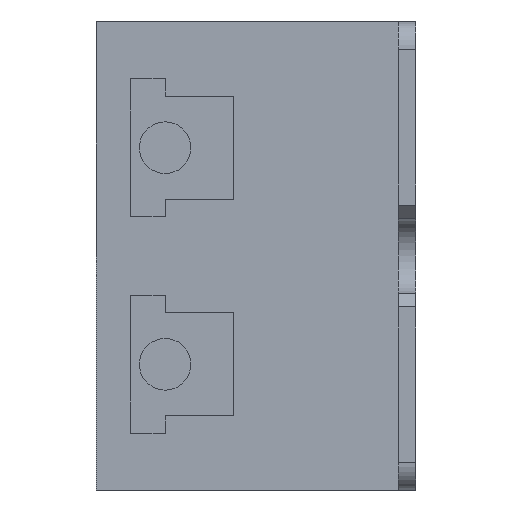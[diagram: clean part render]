
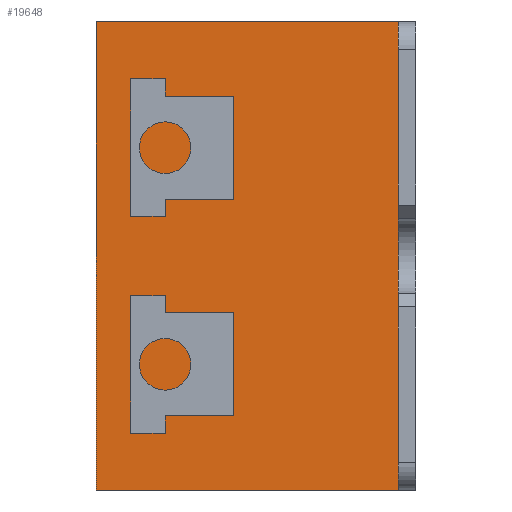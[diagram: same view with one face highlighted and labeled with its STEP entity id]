
A CAD part, left-side view. The second image highlights one B-rep face of the part: STEP entity #19648.
In plain terms, the highlighted planar face has unit normal (-1, 0, 0).
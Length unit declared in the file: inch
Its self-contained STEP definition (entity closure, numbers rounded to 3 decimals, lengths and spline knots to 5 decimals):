
#71 = DIRECTION ( 'NONE',  ( 0., 0., -1. ) ) ;
#1727 = CARTESIAN_POINT ( 'NONE',  ( -4.25, -0.58, -0.85 ) ) ;
#2116 = EDGE_LOOP ( 'NONE', ( #22579, #5166, #16364, #14375 ) ) ;
#3114 = EDGE_CURVE ( 'NONE', #20078, #19324, #18248, .T. ) ;
#3245 = CARTESIAN_POINT ( 'NONE',  ( -4.25, -0.58, 0.85 ) ) ;
#3308 = VERTEX_POINT ( 'NONE', #9154 ) ;
#3477 = DIRECTION ( 'NONE',  ( 0., 0., -1. ) ) ;
#4046 = LINE ( 'NONE', #11395, #5158 ) ;
#5158 = VECTOR ( 'NONE', #71, 39.37008 ) ;
#5166 = ORIENTED_EDGE ( 'NONE', *, *, #16081, .F. ) ;
#7115 = DIRECTION ( 'NONE',  ( 0., 0., -1. ) ) ;
#8026 = CARTESIAN_POINT ( 'NONE',  ( -4.25, -0.5175, -0.85 ) ) ;
#8502 = LINE ( 'NONE', #19593, #22404 ) ;
#9076 = DIRECTION ( 'NONE',  ( 0., -1., 0. ) ) ;
#9154 = CARTESIAN_POINT ( 'NONE',  ( -4.25, 0.58, 0.85 ) ) ;
#10187 = CARTESIAN_POINT ( 'NONE',  ( -4.25, -0.5175, 0.85 ) ) ;
#11395 = CARTESIAN_POINT ( 'NONE',  ( -4.25, 0.58, 0.85 ) ) ;
#12402 = CARTESIAN_POINT ( 'NONE',  ( -4.25, -0.5175, 0.85 ) ) ;
#14375 = ORIENTED_EDGE ( 'NONE', *, *, #3114, .T. ) ;
#14554 = DIRECTION ( 'NONE',  ( 1., 0., 0. ) ) ;
#15851 = AXIS2_PLACEMENT_3D ( 'NONE', #3245, #14554, #3477 ) ;
#16081 = EDGE_CURVE ( 'NONE', #3308, #22692, #8502, .T. ) ;
#16364 = ORIENTED_EDGE ( 'NONE', *, *, #23392, .T. ) ;
#17687 = VECTOR ( 'NONE', #9076, 39.37008 ) ;
#17950 = PLANE ( 'NONE',  #15851 ) ;
#18248 = LINE ( 'NONE', #1727, #17687 ) ;
#19324 = VERTEX_POINT ( 'NONE', #8026 ) ;
#19593 = CARTESIAN_POINT ( 'NONE',  ( -4.25, -0.58, 0.85 ) ) ;
#19648 = ADVANCED_FACE ( 'NONE', ( #23838 ), #17950, .F. ) ;
#20078 = VERTEX_POINT ( 'NONE', #21958 ) ;
#20420 = EDGE_CURVE ( 'NONE', #22692, #19324, #21578, .T. ) ;
#21578 = LINE ( 'NONE', #12402, #23580 ) ;
#21958 = CARTESIAN_POINT ( 'NONE',  ( -4.25, 0.58, -0.85 ) ) ;
#22404 = VECTOR ( 'NONE', #23333, 39.37008 ) ;
#22579 = ORIENTED_EDGE ( 'NONE', *, *, #20420, .F. ) ;
#22692 = VERTEX_POINT ( 'NONE', #10187 ) ;
#23333 = DIRECTION ( 'NONE',  ( 0., -1., 0. ) ) ;
#23392 = EDGE_CURVE ( 'NONE', #3308, #20078, #4046, .T. ) ;
#23580 = VECTOR ( 'NONE', #7115, 39.37008 ) ;
#23838 = FACE_OUTER_BOUND ( 'NONE', #2116, .T. ) ;
